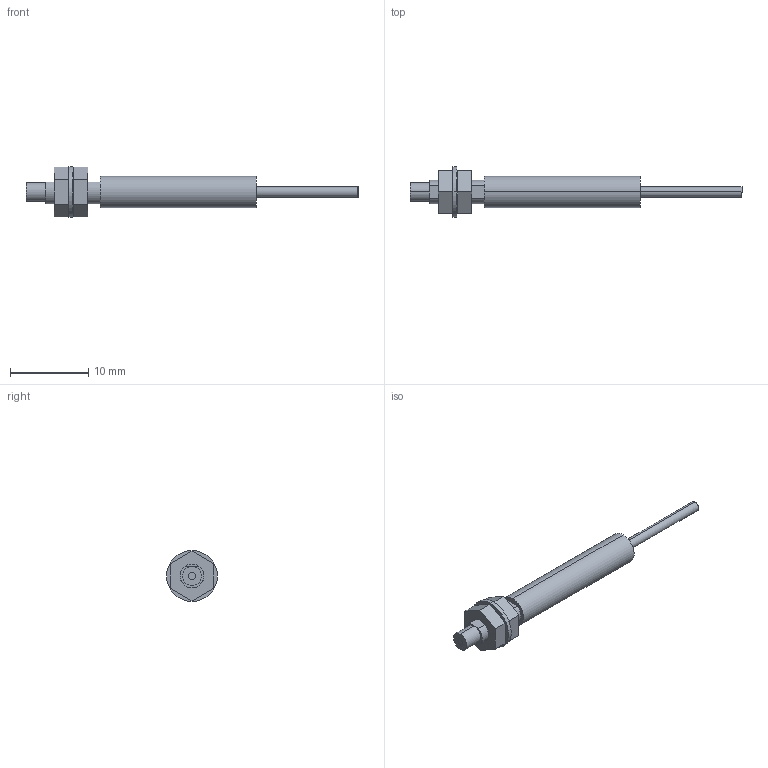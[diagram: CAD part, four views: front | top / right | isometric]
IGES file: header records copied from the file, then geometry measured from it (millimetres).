
Start section: SolidWorks IGES FILE using analytic representation for surfaces
Global section: file name: C:\Documents and Settings\yk0651\デスクトップ\3D_catalog_050929\0_IGES\FT-T80.IGS; native system: SolidWorks 2004 by SolidWorks Corporation; preprocessor: Version 5.3; author: yk0651; date: 051002.181341; units: millimetre
Bounding box: 42.5 x 6.5 x 6.5 mm (x, y, z)
Volume: 409.2 mm3; surface area: 660.2 mm2
Topology: 4 solids, 4 shells, 43 faces, 93 edges, 62 vertices
Faces by surface type: plane 25, revolution 18
